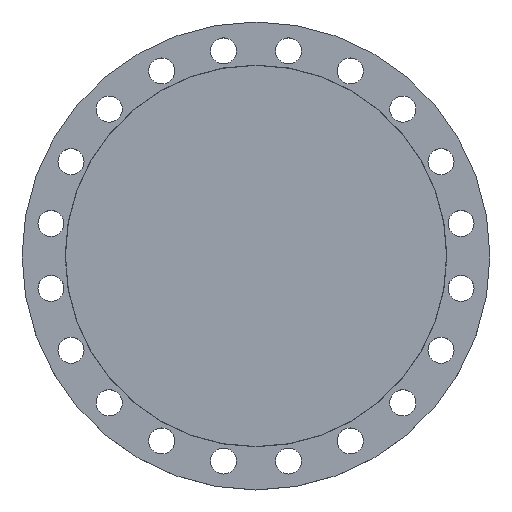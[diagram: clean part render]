
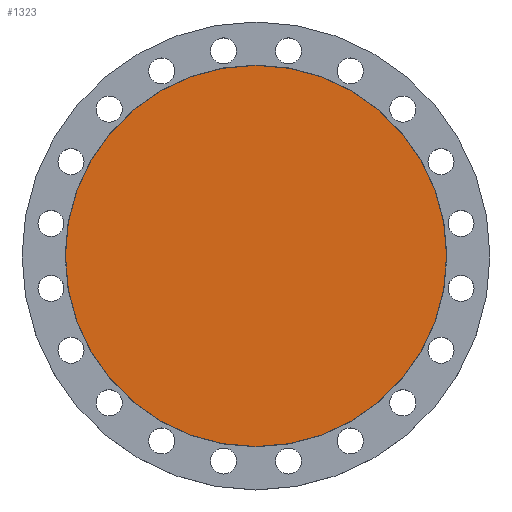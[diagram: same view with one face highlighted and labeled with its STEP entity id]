
A CAD part, top view. The second image highlights one B-rep face of the part: STEP entity #1323.
In plain terms, the highlighted planar face has unit normal (0, 0, 1).
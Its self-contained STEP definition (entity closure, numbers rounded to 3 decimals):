
#17 = EDGE_CURVE ( 'NONE', #72, #843, #572, .T. ) ;
#72 = VERTEX_POINT ( 'NONE', #817 ) ;
#108 = DIRECTION ( 'NONE',  ( 1., 0., 0. ) ) ;
#109 = DIRECTION ( 'NONE',  ( 0., 0., 1. ) ) ;
#110 = CARTESIAN_POINT ( 'NONE',  ( 0., 0., 0. ) ) ;
#112 = PLANE ( 'NONE',  #121 ) ;
#113 = FACE_OUTER_BOUND ( 'NONE', #931, .T. ) ;
#121 = AXIS2_PLACEMENT_3D ( 'NONE', #110, #109, #108 ) ;
#140 = DIRECTION ( 'NONE',  ( 0., 0., -1. ) ) ;
#501 = CARTESIAN_POINT ( 'NONE',  ( -307.5, 0., 0. ) ) ;
#519 = CIRCLE ( 'NONE', #542, 307.5 ) ;
#542 = AXIS2_PLACEMENT_3D ( 'NONE', #1520, #140, #930 ) ;
#572 = CIRCLE ( 'NONE', #1540, 307.5 ) ;
#817 = CARTESIAN_POINT ( 'NONE',  ( 307.5, 0., 0. ) ) ;
#833 = DIRECTION ( 'NONE',  ( -1., 0., 0. ) ) ;
#834 = DIRECTION ( 'NONE',  ( 0., 0., -1. ) ) ;
#836 = CARTESIAN_POINT ( 'NONE',  ( 0., 0., 0. ) ) ;
#843 = VERTEX_POINT ( 'NONE', #501 ) ;
#930 = DIRECTION ( 'NONE',  ( -1., 0., 0. ) ) ;
#931 = EDGE_LOOP ( 'NONE', ( #1457, #1458 ) ) ;
#1323 = ADVANCED_FACE ( 'NONE', ( #113 ), #112, .T. ) ;
#1457 = ORIENTED_EDGE ( 'NONE', *, *, #1677, .F. ) ;
#1458 = ORIENTED_EDGE ( 'NONE', *, *, #17, .F. ) ;
#1520 = CARTESIAN_POINT ( 'NONE',  ( 0., 0., 0. ) ) ;
#1540 = AXIS2_PLACEMENT_3D ( 'NONE', #836, #834, #833 ) ;
#1677 = EDGE_CURVE ( 'NONE', #843, #72, #519, .T. ) ;
